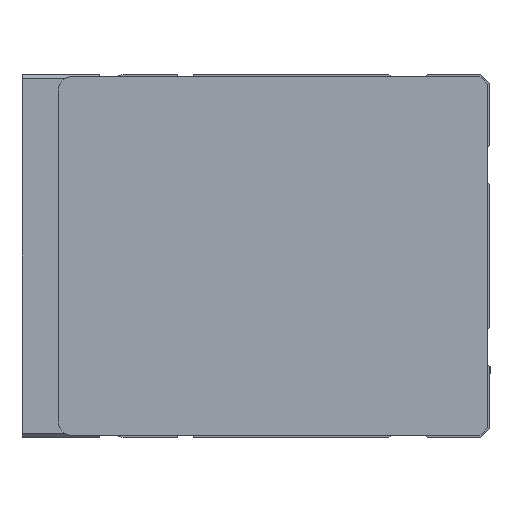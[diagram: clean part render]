
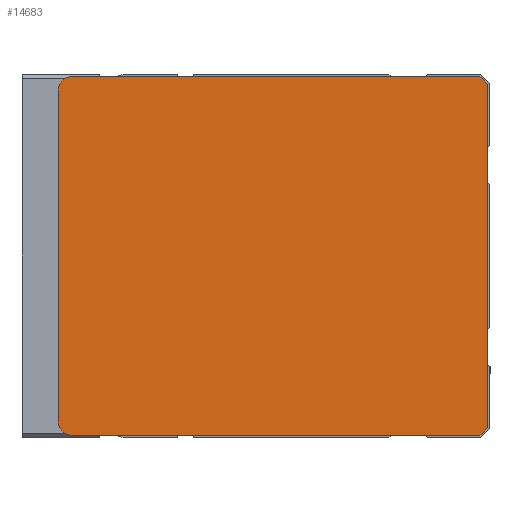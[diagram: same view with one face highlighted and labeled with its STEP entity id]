
A CAD part, left-side view. The second image highlights one B-rep face of the part: STEP entity #14683.
In plain terms, the highlighted planar face has unit normal (-1, 0, 0) as drawn and (0, 0, -1) by its records, which use the part's own axes.
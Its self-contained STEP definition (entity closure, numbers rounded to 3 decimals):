
#1281=CIRCLE('',#15610,3.);
#1282=CIRCLE('',#15613,3.);
#1682=FACE_OUTER_BOUND('',#2546,.T.);
#2546=EDGE_LOOP('',(#9994,#9995,#9996,#9997,#9998,#9999,#10000,#10001));
#3658=LINE('',#20879,#4956);
#3661=LINE('',#20884,#4959);
#3663=LINE('',#20888,#4961);
#3665=LINE('',#20892,#4963);
#3667=LINE('',#20896,#4965);
#3670=LINE('',#20904,#4968);
#4956=VECTOR('',#17001,89.793);
#4959=VECTOR('',#17006,2.414);
#4961=VECTOR('',#17010,75.586);
#4963=VECTOR('',#17014,2.414);
#4965=VECTOR('',#17018,89.793);
#4968=VECTOR('',#17027,73.);
#6242=VERTEX_POINT('',#20877);
#6243=VERTEX_POINT('',#20878);
#6244=VERTEX_POINT('',#20883);
#6245=VERTEX_POINT('',#20887);
#6246=VERTEX_POINT('',#20891);
#6247=VERTEX_POINT('',#20895);
#6248=VERTEX_POINT('',#20899);
#6249=VERTEX_POINT('',#20903);
#7729=EDGE_CURVE('',#6242,#6243,#3658,.T.);
#7732=EDGE_CURVE('',#6243,#6244,#3661,.T.);
#7734=EDGE_CURVE('',#6244,#6245,#3663,.T.);
#7736=EDGE_CURVE('',#6245,#6246,#3665,.T.);
#7738=EDGE_CURVE('',#6246,#6247,#3667,.T.);
#7740=EDGE_CURVE('',#6247,#6248,#1281,.T.);
#7742=EDGE_CURVE('',#6248,#6249,#3670,.T.);
#7744=EDGE_CURVE('',#6249,#6242,#1282,.T.);
#9994=ORIENTED_EDGE('',*,*,#7738,.F.);
#9995=ORIENTED_EDGE('',*,*,#7736,.F.);
#9996=ORIENTED_EDGE('',*,*,#7734,.F.);
#9997=ORIENTED_EDGE('',*,*,#7732,.F.);
#9998=ORIENTED_EDGE('',*,*,#7729,.F.);
#9999=ORIENTED_EDGE('',*,*,#7744,.F.);
#10000=ORIENTED_EDGE('',*,*,#7742,.F.);
#10001=ORIENTED_EDGE('',*,*,#7740,.F.);
#14172=PLANE('',#15623);
#14683=ADVANCED_FACE('',(#1682),#14172,.T.);
#15610=AXIS2_PLACEMENT_3D('',#20900,#17022,#17023);
#15613=AXIS2_PLACEMENT_3D('',#20907,#17031,#17032);
#15623=AXIS2_PLACEMENT_3D('',#20933,#17061,#17062);
#17001=DIRECTION('',(0.,-1.,0.));
#17006=DIRECTION('',(0.707,-0.707,0.));
#17010=DIRECTION('',(1.,0.,0.));
#17014=DIRECTION('',(0.707,0.707,0.));
#17018=DIRECTION('',(0.,1.,0.));
#17022=DIRECTION('center_axis',(0.,0.,
1.));
#17023=DIRECTION('ref_axis',(1.,0.,0.));
#17027=DIRECTION('',(-1.,0.,0.));
#17031=DIRECTION('center_axis',(0.,0.,
1.));
#17032=DIRECTION('ref_axis',(0.,1.,0.));
#17061=DIRECTION('center_axis',(0.,0.,
-1.));
#17062=DIRECTION('ref_axis',(-1.,0.,0.));
#20877=CARTESIAN_POINT('',(-78.5,92.,-1138.));
#20878=CARTESIAN_POINT('',(-78.5,2.207,-1138.));
#20879=CARTESIAN_POINT('',(-78.5,92.,-1138.));
#20883=CARTESIAN_POINT('',(-76.793,0.5,-1138.));
#20884=CARTESIAN_POINT('',(-78.5,2.207,-1138.));
#20887=CARTESIAN_POINT('',(-1.207,0.5,-1138.));
#20888=CARTESIAN_POINT('',(-76.793,0.5,-1138.));
#20891=CARTESIAN_POINT('',(0.5,2.207,-1138.));
#20892=CARTESIAN_POINT('',(-1.207,0.5,-1138.));
#20895=CARTESIAN_POINT('',(0.5,92.,-1138.));
#20896=CARTESIAN_POINT('',(0.5,2.207,-1138.));
#20899=CARTESIAN_POINT('',(-2.5,95.,-1138.));
#20900=CARTESIAN_POINT('Origin',(-2.5,92.,-1138.));
#20903=CARTESIAN_POINT('',(-75.5,95.,-1138.));
#20904=CARTESIAN_POINT('',(-2.5,95.,-1138.));
#20907=CARTESIAN_POINT('Origin',(-75.5,92.,-1138.));
#20933=CARTESIAN_POINT('Origin',(-39.,44.214,-1138.));
